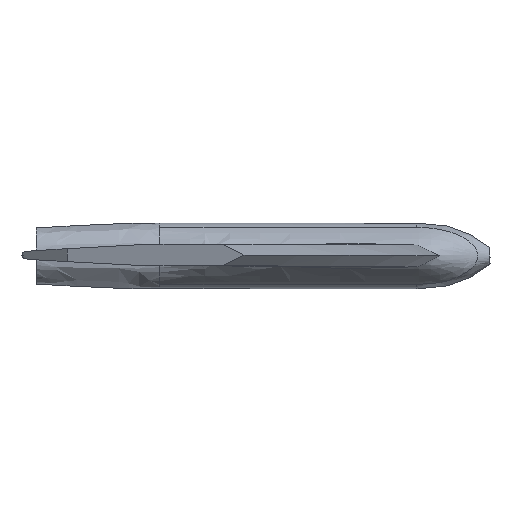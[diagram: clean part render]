
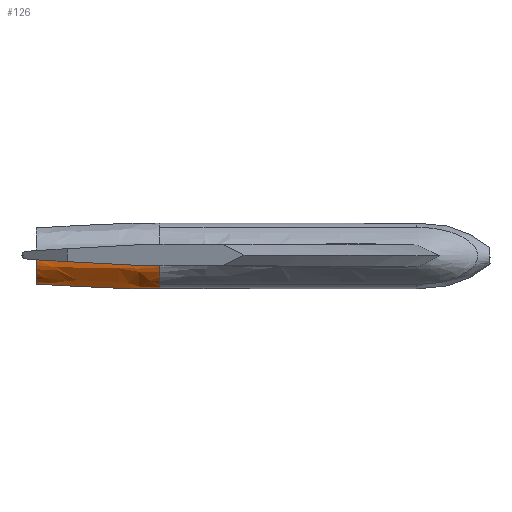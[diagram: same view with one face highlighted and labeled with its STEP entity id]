
A CAD part, top view. The second image highlights one B-rep face of the part: STEP entity #126.
In plain terms, the highlighted free-form (B-spline) face has degree [3, 3] with [4, 4] control points.
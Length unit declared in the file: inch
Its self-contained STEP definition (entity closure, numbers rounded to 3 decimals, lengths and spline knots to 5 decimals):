
#57=(
BOUNDED_SURFACE()
B_SPLINE_SURFACE(3,3,((#3685,#3686,#3687,#3688),(#3689,#3690,#3691,#3692),
(#3693,#3694,#3695,#3696),(#3697,#3698,#3699,#3700)),.UNSPECIFIED.,.F.,
 .F.,.F.)
B_SPLINE_SURFACE_WITH_KNOTS((4,4),(4,4),(0.,1.),(0.,1.),.UNSPECIFIED.)
GEOMETRIC_REPRESENTATION_ITEM()
RATIONAL_B_SPLINE_SURFACE(((1.,0.333,0.333,1.),
(1.,0.333,0.333,1.),(1.,0.333,0.333,
1.),(1.,0.333,0.333,1.)))
REPRESENTATION_ITEM('')
SURFACE()
);
#89=B_SPLINE_CURVE_WITH_KNOTS('',3,(#3670,#3671,#3672,#3673,#3674,#3675,
#3676,#3677,#3678,#3679,#3680,#3681,#3682,#3683,#3684),.UNSPECIFIED.,.F.,
 .F.,(4,1,1,1,1,1,1,1,1,1,1,1,4),(0.,0.03125,0.0625,
0.125,0.1875,0.25,0.3125,0.375,0.5,0.625,0.75,0.875,1.),.UNSPECIFIED.);
#126=ADVANCED_FACE('',(#166),#57,.T.);
#166=FACE_OUTER_BOUND('',#199,.T.);
#199=EDGE_LOOP('',(#288,#289,#290,#291,#292,#293));
#288=ORIENTED_EDGE('',*,*,#493,.T.);
#289=ORIENTED_EDGE('',*,*,#487,.T.);
#290=ORIENTED_EDGE('',*,*,#494,.F.);
#291=ORIENTED_EDGE('',*,*,#495,.F.);
#292=ORIENTED_EDGE('',*,*,#490,.T.);
#293=ORIENTED_EDGE('',*,*,#479,.T.);
#412=VERTEX_POINT('',#1962);
#413=VERTEX_POINT('',#1963);
#421=VERTEX_POINT('',#2227);
#422=VERTEX_POINT('',#2232);
#424=VERTEX_POINT('',#3624);
#426=VERTEX_POINT('',#3669);
#479=EDGE_CURVE('',#413,#412,#558,.T.);
#487=EDGE_CURVE('',#422,#421,#561,.T.);
#490=EDGE_CURVE('',#424,#413,#564,.T.);
#493=EDGE_CURVE('',#412,#422,#566,.T.);
#494=EDGE_CURVE('',#426,#421,#567,.T.);
#495=EDGE_CURVE('',#424,#426,#89,.T.);
#558=(
BOUNDED_CURVE()
B_SPLINE_CURVE(3,(#1964,#1965,#1966,#1967),.UNSPECIFIED.,.F.,.F.)
B_SPLINE_CURVE_WITH_KNOTS((4,4),(0.,1.),.UNSPECIFIED.)
CURVE()
GEOMETRIC_REPRESENTATION_ITEM()
RATIONAL_B_SPLINE_CURVE((1.,0.333,0.333,1.))
REPRESENTATION_ITEM('')
);
#561=(
BOUNDED_CURVE()
B_SPLINE_CURVE(3,(#2228,#2229,#2230,#2231),.UNSPECIFIED.,.F.,.F.)
B_SPLINE_CURVE_WITH_KNOTS((4,4),(0.,1.),.UNSPECIFIED.)
CURVE()
GEOMETRIC_REPRESENTATION_ITEM()
RATIONAL_B_SPLINE_CURVE((1.,0.756,0.601,0.536))
REPRESENTATION_ITEM('')
);
#564=(
BOUNDED_CURVE()
B_SPLINE_CURVE(3,(#3620,#3621,#3622,#3623),.UNSPECIFIED.,.F.,.F.)
B_SPLINE_CURVE_WITH_KNOTS((4,4),(0.,1.),.UNSPECIFIED.)
CURVE()
GEOMETRIC_REPRESENTATION_ITEM()
RATIONAL_B_SPLINE_CURVE((1.,1.,1.,1.))
REPRESENTATION_ITEM('')
);
#566=(
BOUNDED_CURVE()
B_SPLINE_CURVE(3,(#3645,#3646,#3647,#3648),.UNSPECIFIED.,.F.,.F.)
B_SPLINE_CURVE_WITH_KNOTS((4,4),(0.,1.),.UNSPECIFIED.)
CURVE()
GEOMETRIC_REPRESENTATION_ITEM()
RATIONAL_B_SPLINE_CURVE((1.,1.,1.,1.))
REPRESENTATION_ITEM('')
);
#567=(
BOUNDED_CURVE()
B_SPLINE_CURVE(3,(#3665,#3666,#3667,#3668),.UNSPECIFIED.,.F.,.F.)
B_SPLINE_CURVE_WITH_KNOTS((4,4),(0.,1.),.UNSPECIFIED.)
CURVE()
GEOMETRIC_REPRESENTATION_ITEM()
RATIONAL_B_SPLINE_CURVE((0.998,0.909,0.91,
1.))
REPRESENTATION_ITEM('')
);
#1962=CARTESIAN_POINT('',(282.74968,0.,-8.18174));
#1963=CARTESIAN_POINT('',(282.74968,0.,7.12226));
#1964=CARTESIAN_POINT('',(282.74968,0.,7.12226));
#1965=CARTESIAN_POINT('',(282.74968,-15.304,7.12226));
#1966=CARTESIAN_POINT('',(282.74968,-15.304,-8.18174));
#1967=CARTESIAN_POINT('',(282.74968,0.,-8.18174));
#2227=CARTESIAN_POINT('',(316.49968,-7.78174,-5.02974));
#2228=CARTESIAN_POINT('',(316.49968,0.,-9.51894));
#2229=CARTESIAN_POINT('',(316.49968,-2.89959,-9.51894));
#2230=CARTESIAN_POINT('',(316.49968,-5.95693,-8.18536));
#2231=CARTESIAN_POINT('',(316.49968,-7.78175,-5.02974));
#2232=CARTESIAN_POINT('',(316.49968,0.,-9.51894));
#3620=CARTESIAN_POINT('',(316.49968,0.,8.45945));
#3621=CARTESIAN_POINT('',(305.24086,0.,8.45945));
#3622=CARTESIAN_POINT('',(293.99307,0.,7.79073));
#3623=CARTESIAN_POINT('',(282.74968,0.,7.12226));
#3624=CARTESIAN_POINT('',(316.49968,0.,8.45946));
#3645=CARTESIAN_POINT('',(282.74968,0.,-8.18174));
#3646=CARTESIAN_POINT('',(293.99307,0.,-8.85021));
#3647=CARTESIAN_POINT('',(305.24086,0.,-9.51894));
#3648=CARTESIAN_POINT('',(316.49968,0.,-9.51894));
#3665=CARTESIAN_POINT('',(316.49968,-7.78175,3.97026));
#3666=CARTESIAN_POINT('',(316.49968,-9.43177,1.11691));
#3667=CARTESIAN_POINT('',(316.49968,-9.43075,-2.17816));
#3668=CARTESIAN_POINT('',(316.49968,-7.78175,-5.02974));
#3669=CARTESIAN_POINT('',(316.49968,-7.78174,3.97025));
#3670=CARTESIAN_POINT('',(316.49968,0.,8.45946));
#3671=CARTESIAN_POINT('',(316.49968,-0.09799,8.45946));
#3672=CARTESIAN_POINT('',(316.49968,-0.29396,8.45623));
#3673=CARTESIAN_POINT('',(316.49968,-0.68549,8.43694));
#3674=CARTESIAN_POINT('',(316.49968,-1.17334,8.38884));
#3675=CARTESIAN_POINT('',(316.49968,-1.75377,8.29313));
#3676=CARTESIAN_POINT('',(316.49968,-2.32672,8.15977));
#3677=CARTESIAN_POINT('',(316.49968,-2.8897,7.98914));
#3678=CARTESIAN_POINT('',(316.49968,-3.62387,7.71304));
#3679=CARTESIAN_POINT('',(316.49968,-4.50474,7.27893));
#3680=CARTESIAN_POINT('',(316.49968,-5.48469,6.62444));
#3681=CARTESIAN_POINT('',(316.49968,-6.37124,5.84813));
#3682=CARTESIAN_POINT('',(316.49968,-7.14847,4.96239));
#3683=CARTESIAN_POINT('',(316.49968,-7.58553,4.30958));
#3684=CARTESIAN_POINT('',(316.49968,-7.78174,3.97025));
#3685=CARTESIAN_POINT('',(282.74968,0.,-8.18174));
#3686=CARTESIAN_POINT('',(282.74968,-15.304,-8.18174));
#3687=CARTESIAN_POINT('',(282.74968,-15.304,7.12226));
#3688=CARTESIAN_POINT('',(282.74968,0.,7.12226));
#3689=CARTESIAN_POINT('',(293.99307,0.,-8.85021));
#3690=CARTESIAN_POINT('',(293.99307,-16.64093,-8.85021));
#3691=CARTESIAN_POINT('',(293.99307,-16.64093,7.79073));
#3692=CARTESIAN_POINT('',(293.99307,0.,7.79073));
#3693=CARTESIAN_POINT('',(305.24086,0.,-9.51894));
#3694=CARTESIAN_POINT('',(305.24086,-17.97839,-9.51894));
#3695=CARTESIAN_POINT('',(305.24086,-17.97839,8.45945));
#3696=CARTESIAN_POINT('',(305.24086,0.,8.45945));
#3697=CARTESIAN_POINT('',(316.49968,0.,-9.51894));
#3698=CARTESIAN_POINT('',(316.49968,-17.97839,-9.51894));
#3699=CARTESIAN_POINT('',(316.49968,-17.97839,8.45945));
#3700=CARTESIAN_POINT('',(316.49968,0.,8.45945));
